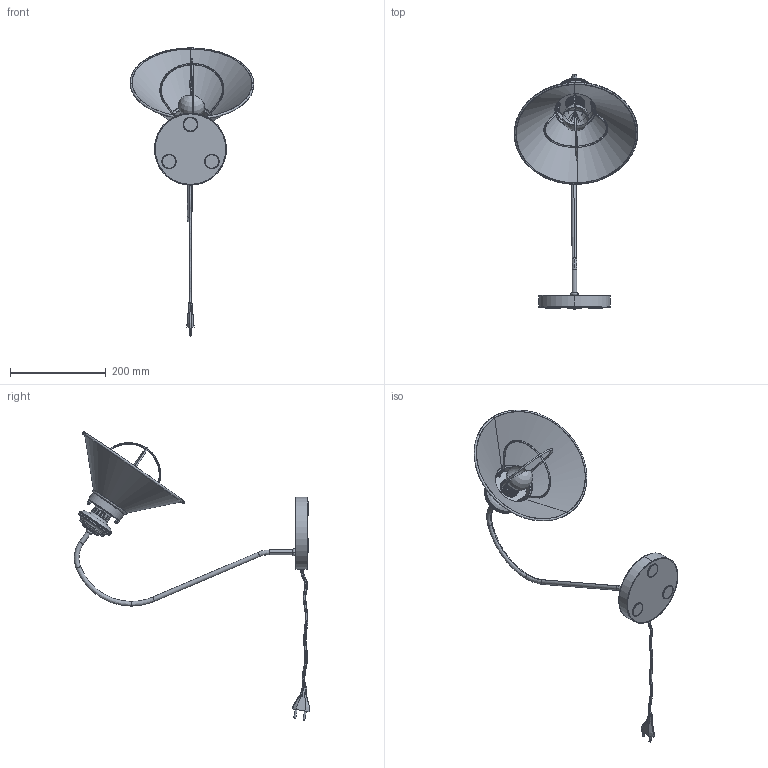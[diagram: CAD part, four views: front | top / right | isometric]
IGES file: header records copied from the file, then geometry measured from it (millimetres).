
Start section: SolidWorks IGES file using analytic representation for surfaces
Global section: file name: E:\3D lampy\Loft\Loft biurko\Loft biurko.IGS; native system: SolidWorks 2016; preprocessor: SolidWorks 2016; author: Asia; date: 160920.145257; units: millimetre
Bounding box: 257.77 x 490.91 x 600.97 mm (x, y, z)
Surface area: 346617.7 mm2 (no closed solid volume)
Topology: 0 solids, 0 shells, 579 faces, 8182 edges, 8167 vertices
Faces by surface type: bspline 309, revolution 270
